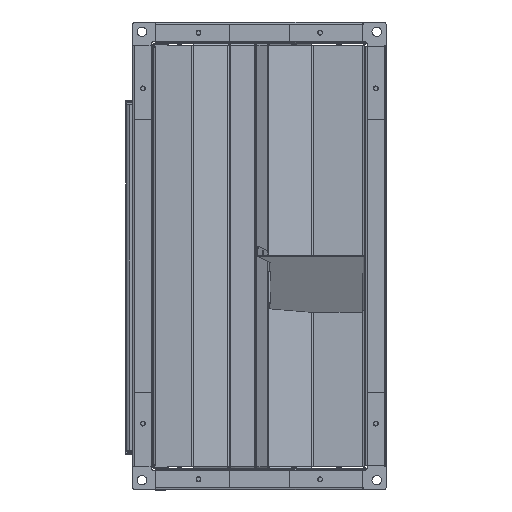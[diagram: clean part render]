
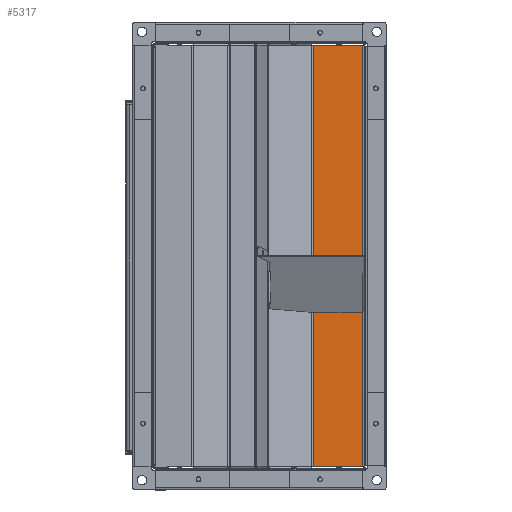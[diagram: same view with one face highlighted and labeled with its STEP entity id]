
A CAD part, left-side view. The second image highlights one B-rep face of the part: STEP entity #5317.
In plain terms, the highlighted planar face has unit normal (-1, 0, 0).
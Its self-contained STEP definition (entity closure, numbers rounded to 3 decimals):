
#44 = ORIENTED_EDGE ( 'NONE', *, *, #6944, .T. ) ;
#332 = VECTOR ( 'NONE', #5132, 1000. ) ;
#832 = CARTESIAN_POINT ( 'NONE',  ( 197.6, 2.307, -197.2 ) ) ;
#973 = VECTOR ( 'NONE', #13964, 1000. ) ;
#1328 = ORIENTED_EDGE ( 'NONE', *, *, #24358, .T. ) ;
#1826 = DIRECTION ( 'NONE',  ( 1., 0., 0. ) ) ;
#2175 = CARTESIAN_POINT ( 'NONE',  ( 197.6, 0.8, -199.2 ) ) ;
#5036 = VERTEX_POINT ( 'NONE', #11091 ) ;
#5132 = DIRECTION ( 'NONE',  ( 0., -1., 0. ) ) ;
#5317 = ADVANCED_FACE ( 'NONE', ( #28049, #29631 ), #24678, .F. ) ;
#5627 = DIRECTION ( 'NONE',  ( 1., 0., 0. ) ) ;
#5650 = VERTEX_POINT ( 'NONE', #19670 ) ;
#6009 = EDGE_CURVE ( 'NONE', #10690, #5650, #27596, .T. ) ;
#6031 = CARTESIAN_POINT ( 'NONE',  ( 197.6, 48.749, -199.2 ) ) ;
#6422 = VERTEX_POINT ( 'NONE', #23322 ) ;
#6944 = EDGE_CURVE ( 'NONE', #17444, #5036, #27991, .T. ) ;
#7674 = CARTESIAN_POINT ( 'NONE',  ( 197.6, 49.057, 197.2 ) ) ;
#8296 = DIRECTION ( 'NONE',  ( 0., 1., 0. ) ) ;
#9720 = EDGE_CURVE ( 'NONE', #5650, #6422, #14987, .T. ) ;
#9734 = DIRECTION ( 'NONE',  ( 1., 0., 0. ) ) ;
#10318 = CARTESIAN_POINT ( 'NONE',  ( 197.6, 2.8, 197.2 ) ) ;
#10573 = EDGE_LOOP ( 'NONE', ( #27198, #26868, #14500, #25631 ) ) ;
#10625 = EDGE_LOOP ( 'NONE', ( #44, #1328 ) ) ;
#10690 = VERTEX_POINT ( 'NONE', #10318 ) ;
#11091 = CARTESIAN_POINT ( 'NONE',  ( 197.6, 25.64, -44.913 ) ) ;
#11584 = VERTEX_POINT ( 'NONE', #31530 ) ;
#13180 = AXIS2_PLACEMENT_3D ( 'NONE', #16781, #1826, #19296 ) ;
#13405 = EDGE_CURVE ( 'NONE', #6422, #11584, #17546, .T. ) ;
#13964 = DIRECTION ( 'NONE',  ( 0., 0., -1. ) ) ;
#14500 = ORIENTED_EDGE ( 'NONE', *, *, #13405, .F. ) ;
#14987 = LINE ( 'NONE', #832, #28321 ) ;
#15401 = AXIS2_PLACEMENT_3D ( 'NONE', #2175, #9734, #27220 ) ;
#16781 = CARTESIAN_POINT ( 'NONE',  ( 197.6, 25.64, -47.013 ) ) ;
#17444 = VERTEX_POINT ( 'NONE', #26682 ) ;
#17546 = LINE ( 'NONE', #6031, #30135 ) ;
#18371 = AXIS2_PLACEMENT_3D ( 'NONE', #20566, #5627, #23074 ) ;
#19296 = DIRECTION ( 'NONE',  ( 0., 0., -1. ) ) ;
#19670 = CARTESIAN_POINT ( 'NONE',  ( 197.6, 2.8, -197.2 ) ) ;
#20290 = LINE ( 'NONE', #7674, #332 ) ;
#20566 = CARTESIAN_POINT ( 'NONE',  ( 197.6, 25.64, -47.013 ) ) ;
#20977 = CIRCLE ( 'NONE', #13180, 2.1 ) ;
#22327 = EDGE_CURVE ( 'NONE', #11584, #10690, #20290, .T. ) ;
#23074 = DIRECTION ( 'NONE',  ( 0., 0., -1. ) ) ;
#23322 = CARTESIAN_POINT ( 'NONE',  ( 197.6, 48.749, -197.2 ) ) ;
#24358 = EDGE_CURVE ( 'NONE', #5036, #17444, #20977, .T. ) ;
#24678 = PLANE ( 'NONE',  #15401 ) ;
#25631 = ORIENTED_EDGE ( 'NONE', *, *, #9720, .F. ) ;
#26002 = DIRECTION ( 'NONE',  ( 0., 0., 1. ) ) ;
#26682 = CARTESIAN_POINT ( 'NONE',  ( 197.6, 25.64, -49.113 ) ) ;
#26868 = ORIENTED_EDGE ( 'NONE', *, *, #22327, .F. ) ;
#27198 = ORIENTED_EDGE ( 'NONE', *, *, #6009, .F. ) ;
#27220 = DIRECTION ( 'NONE',  ( 0., 0., -1. ) ) ;
#27596 = LINE ( 'NONE', #31416, #973 ) ;
#27991 = CIRCLE ( 'NONE', #18371, 2.1 ) ;
#28049 = FACE_BOUND ( 'NONE', #10625, .T. ) ;
#28321 = VECTOR ( 'NONE', #8296, 1000. ) ;
#29631 = FACE_OUTER_BOUND ( 'NONE', #10573, .T. ) ;
#30135 = VECTOR ( 'NONE', #26002, 1000. ) ;
#31416 = CARTESIAN_POINT ( 'NONE',  ( 197.6, 2.8, 197.693 ) ) ;
#31530 = CARTESIAN_POINT ( 'NONE',  ( 197.6, 48.749, 197.2 ) ) ;
